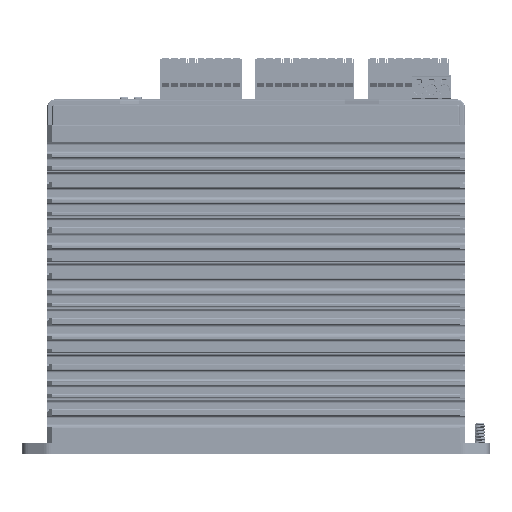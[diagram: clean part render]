
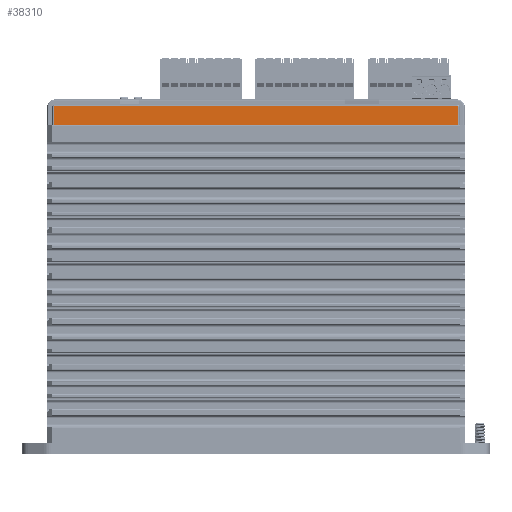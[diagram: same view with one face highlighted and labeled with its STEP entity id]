
A CAD part, left-side view. The second image highlights one B-rep face of the part: STEP entity #38310.
In plain terms, the highlighted planar face has unit normal (-1, 0, 0).
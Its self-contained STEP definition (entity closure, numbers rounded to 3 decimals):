
#13518=DIRECTION('',(0.,0.,-1.));
#13519=VECTOR('',#13518,7.);
#13520=CARTESIAN_POINT('',(-27.5,80.,133.));
#13521=LINE('',#13520,#13519);
#13522=CARTESIAN_POINT('',(-27.5,79.5,133.));
#13523=DIRECTION('',(-1.,0.,0.));
#13524=DIRECTION('',(0.,0.,1.));
#13525=AXIS2_PLACEMENT_3D('',#13522,#13523,#13524);
#13527=DIRECTION('',(0.,1.,0.));
#13528=VECTOR('',#13527,159.);
#13529=CARTESIAN_POINT('',(-27.5,-79.5,133.5));
#13530=LINE('',#13529,#13528);
#13531=CARTESIAN_POINT('',(-27.5,-79.5,133.));
#13532=DIRECTION('',(-1.,0.,0.));
#13533=DIRECTION('',(0.,-1.,0.));
#13534=AXIS2_PLACEMENT_3D('',#13531,#13532,#13533);
#13536=DIRECTION('',(0.,0.,1.));
#13537=VECTOR('',#13536,7.);
#13538=CARTESIAN_POINT('',(-27.5,-80.,126.));
#13539=LINE('',#13538,#13537);
#13540=DIRECTION('',(0.,-1.,0.));
#13541=VECTOR('',#13540,160.);
#13542=CARTESIAN_POINT('',(-27.5,80.,126.));
#13543=LINE('',#13542,#13541);
#18248=CARTESIAN_POINT('',(-27.5,80.,126.));
#18250=VERTEX_POINT('',#18248);
#18254=CARTESIAN_POINT('',(-27.5,80.,133.));
#18255=VERTEX_POINT('',#18254);
#18256=CARTESIAN_POINT('',(-27.5,79.5,133.5));
#18257=VERTEX_POINT('',#18256);
#18260=CARTESIAN_POINT('',(-27.5,-79.5,133.5));
#18261=VERTEX_POINT('',#18260);
#18264=CARTESIAN_POINT('',(-27.5,-80.,133.));
#18265=VERTEX_POINT('',#18264);
#18269=CARTESIAN_POINT('',(-27.5,-80.,126.));
#18271=VERTEX_POINT('',#18269);
#38293=CARTESIAN_POINT('',(-27.5,82.5,0.));
#38294=DIRECTION('',(-1.,0.,0.));
#38295=DIRECTION('',(0.,-1.,0.));
#38296=AXIS2_PLACEMENT_3D('',#38293,#38294,#38295);
#38297=PLANE('',#38296);
#38299=ORIENTED_EDGE('',*,*,#38298,.F.);
#38301=ORIENTED_EDGE('',*,*,#38300,.F.);
#38302=ORIENTED_EDGE('',*,*,#38283,.F.);
#38304=ORIENTED_EDGE('',*,*,#38303,.F.);
#38306=ORIENTED_EDGE('',*,*,#38305,.F.);
#38307=ORIENTED_EDGE('',*,*,#33721,.F.);
#38308=EDGE_LOOP('',(#38299,#38301,#38302,#38304,#38306,#38307));
#38309=FACE_OUTER_BOUND('',#38308,.F.);
#38310=ADVANCED_FACE('',(#38309),#38297,.T.);
#13526=CIRCLE('',#13525,0.5);
#13535=CIRCLE('',#13534,0.5);
#33721=EDGE_CURVE('',#18250,#18271,#13543,.T.);
#38283=EDGE_CURVE('',#18261,#18257,#13530,.T.);
#38298=EDGE_CURVE('',#18255,#18250,#13521,.T.);
#38300=EDGE_CURVE('',#18257,#18255,#13526,.T.);
#38303=EDGE_CURVE('',#18265,#18261,#13535,.T.);
#38305=EDGE_CURVE('',#18271,#18265,#13539,.T.);
